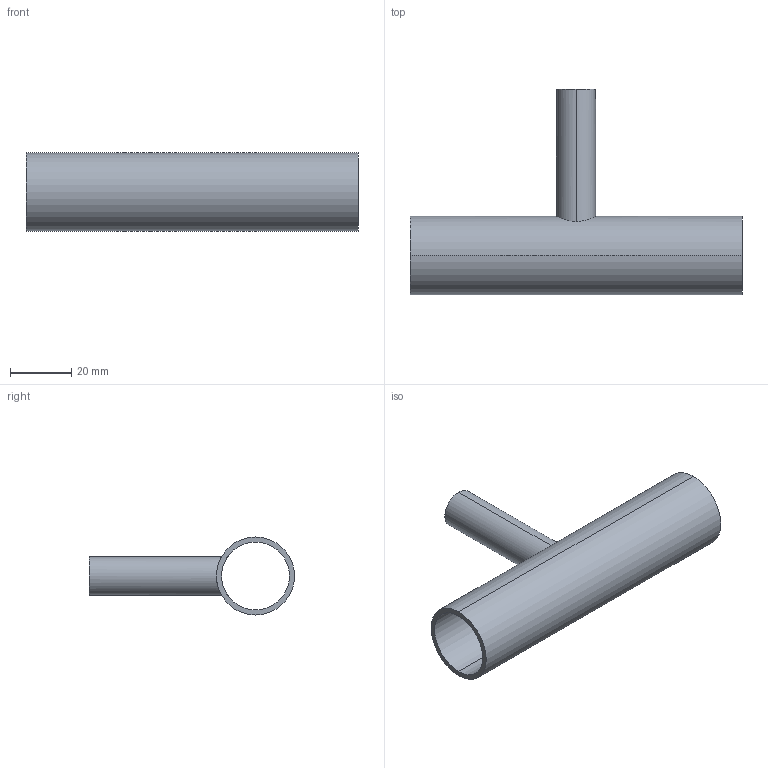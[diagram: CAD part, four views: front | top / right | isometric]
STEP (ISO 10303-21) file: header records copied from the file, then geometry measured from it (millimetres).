
FILE_DESCRIPTION (( 'STEP AP214' ), '1' );
FILE_NAME ('TE7RWWW6L1.0x.5-...STEP', '2016-05-24T04:06:14', ( 'eran' ), ( '' ), 'SwSTEP 2.0', 'SolidWorks 2016', '' );
FILE_SCHEMA (( 'AUTOMOTIVE_DESIGN' ));
Length unit declared in the file: millimetre
Products named in the file (1): TE7RWWW6L1.0x.5-..
Bounding box: 108 x 66.7 x 25.4 mm (x, y, z)
Volume: 15581.4 mm3; surface area: 19182.5 mm2
Topology: 1 solids, 1 shells, 11 faces, 24 edges, 16 vertices
Faces by surface type: cylinder 8, plane 3
Entity records: 500 total; most frequent: CARTESIAN_POINT 208, DIRECTION 56, ORIENTED_EDGE 48, EDGE_CURVE 24, AXIS2_PLACEMENT_3D 24, VERTEX_POINT 16, EDGE_LOOP 16, CIRCLE 12
